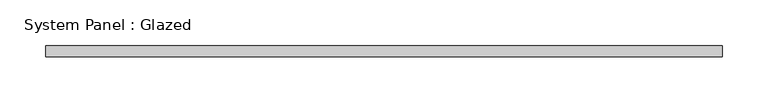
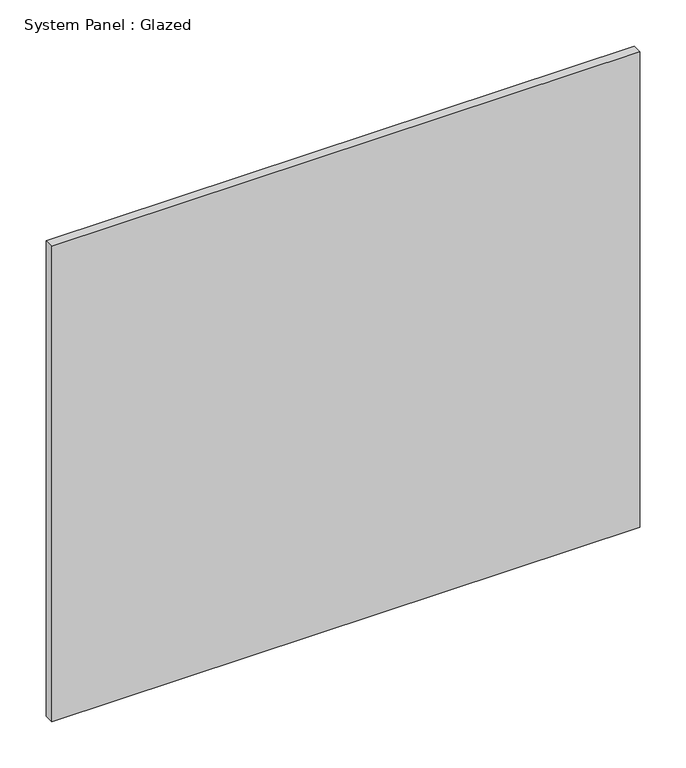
"""IFC4 building model written with IfcOpenShell, lengths in millimetres: plate geometry, System Panel : Glazed."""

from ifc_helpers import new_model, si_unit, origin, origin_with_axes, place, context, project, spatial, polyline, outline, extrude, source, transform, mapped, element, save


def system_panel_glazed_1e96436b(model_context):
    return source(origin(), model_context, "Body", "SweptSolid", [
        extrude(outline(polyline([(368.4394508, 4.0), (-368.4394508, 4.0), (-368.4394508, 16.0), (368.4394508, 16.0), (368.4394508, 4.0)])), origin_with_axes(), (0.0, 0.0, 1.0), 630.0),
    ])


if __name__ == "__main__":
    model = new_model("IFC4")
    model_context = context("Model", 3, world=origin())
    ifc_project = project(units=[si_unit("LENGTHUNIT", "METRE", prefix="MILLI")], contexts=[model_context])
    site = spatial("IfcSite", under=ifc_project)
    building = spatial("IfcBuilding", under=site)
    placement = place(None, origin())
    system_panel_glazed_shape = system_panel_glazed_1e96436b(model_context)
    element("IfcPlate", 1, ObjectType="System Panel : Glazed", at=placement, inside=building, context=model_context, shape_type="MappedRepresentation", body=[
        mapped(system_panel_glazed_shape, transform((0.0, 0.0, 0.0), x_axis=(1.0, 0.0, 0.0), y_axis=(0.0, 1.0, 0.0), z_axis=(0.0, 0.0, 1.0))),
    ])
    save(model, "model.ifc")
